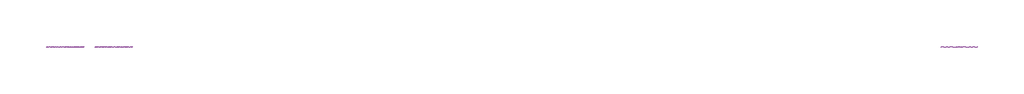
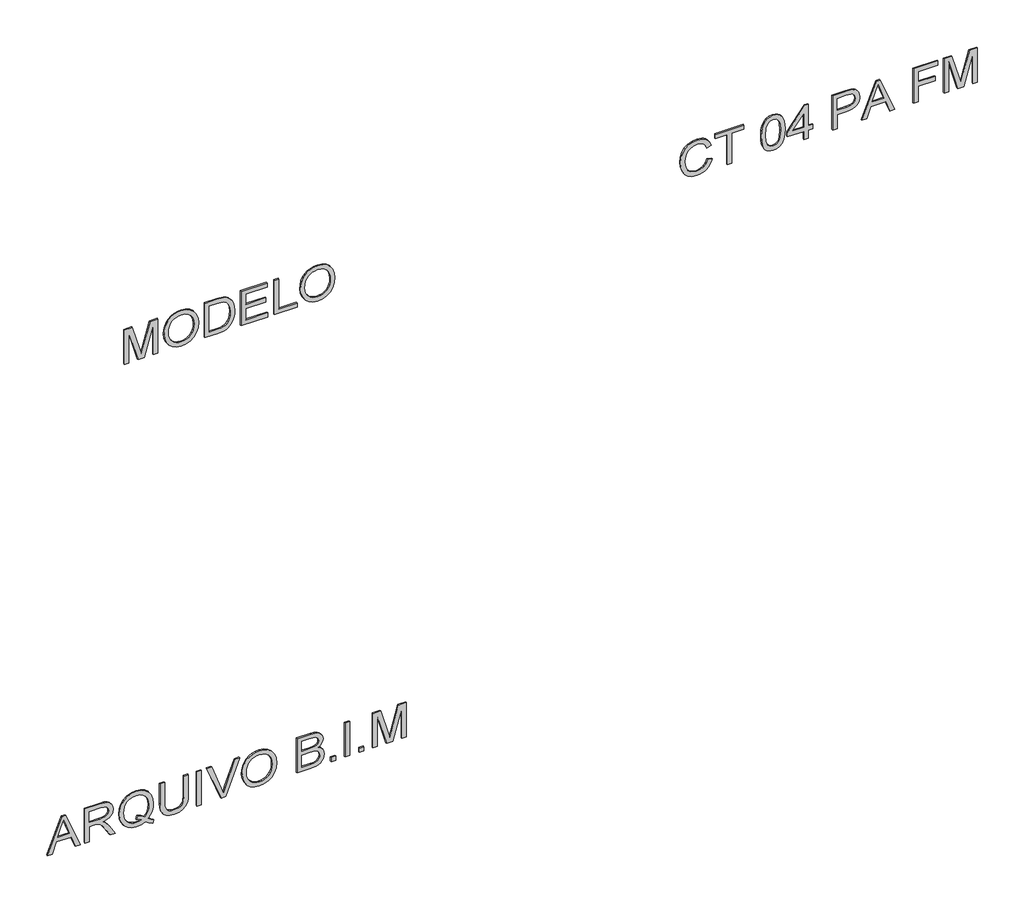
# One storey, part 1 of 2: 3 proxies.
"""IFC4 building model written with IfcOpenShell, lengths in millimetres."""

from ifc_helpers import new_model, si_unit, frame, origin, place, context, project, spatial, polyline, outline, extrude, element, save

model = new_model("IFC4")

# Units and contexts
model_context = context("Model", 3, world=origin())
ifc_project = project(units=[si_unit("LENGTHUNIT", "METRE", prefix="MILLI")], contexts=[model_context])

# Site, building, storey
site = spatial("IfcSite", under=ifc_project)
building = spatial("IfcBuilding", under=site)
storey = spatial("IfcBuildingStorey", under=building, Name="03 - Marelli - Planta Baixa - Cabine 04 Pessoas", Elevation=-24000.0)

# Proxies
placement = place(None, origin())
element("IfcBuildingElementProxy", 1, Name="300mm Arial", ObjectType="300mm Arial", at=placement, inside=storey, context=model_context, shape_type="SweptSolid", body=[
    extrude(outline(polyline([(-22400.0, -7636.3146377), (-22400.0, -7596.5098058), (-22305.8222092, -7562.076051), (-22305.8222092, -7437.9526659), (-22400.0, -7403.4453347), (-22400.0, -7363.6405028), (-22098.6310696, -7483.9379153), (-22098.6310696, -7516.0172252), (-22400.0, -7636.3146377)]), holes=[polyline([(-22268.1510929, -7548.243688), (-22187.584936, -7518.739552), (-22136.3021859, -7499.9775703), (-22194.0596591, -7478.8611437), (-22268.1510929, -7451.7114525), (-22268.1510929, -7548.243688)])]), frame((0.0, 8778.3159498, 0.0), z_axis=(0.0, 1.0, 0.0), x_axis=(0.0, 0.0, 1.0)), (0.0, 0.0, 1.0), 10.0),
    extrude(outline(polyline([(-22400.0, -7323.3942126), (-22400.0, -7285.7230963), (-22268.1510929, -7285.7230963), (-22268.1510929, -7240.2528817), (-22269.4754681, -7218.4006911), (-22276.649167, -7200.484838), (-22296.183701, -7180.582422), (-22337.5336372, -7152.2555084), (-22400.0, -7113.0392877), (-22400.0, -7069.2613303), (-22318.3301971, -7119.5140108), (-22279.5554348, -7150.0482164), (-22263.4422034, -7171.4589486), (-22253.4542072, -7134.3488523), (-22245.4389783, -7119.9669655), (-22235.4095954, -7108.3671864), (-22210.7982899, -7093.0540983), (-22181.1102129, -7087.9497357), (-22157.2438684, -7091.0307474), (-22135.5296337, -7100.2737825), (-22118.0184507, -7114.6763626), (-22106.7612616, -7133.2360093), (-22100.6636176, -7158.629064), (-22098.6310696, -7193.5318683), (-22098.6310696, -7323.3942126), (-22400.0, -7323.3942126)]), holes=[polyline([(-22230.4799766, -7285.7230963), (-22136.3021859, -7285.7230963), (-22136.3021859, -7191.9131875), (-22139.5579415, -7162.1055488), (-22149.3252085, -7141.5501423), (-22164.1324588, -7129.6031746), (-22182.5081645, -7125.620852), (-22195.8162956, -7127.7085823), (-22208.0759631, -7133.9717732), (-22218.2111121, -7144.254075), (-22225.1456877, -7158.3991377), (-22229.1464044, -7177.1887106), (-22230.4799766, -7201.404543), (-22230.4799766, -7285.7230963)])]), frame((0.0, 8778.3159498, 0.0), z_axis=(0.0, 1.0, 0.0), x_axis=(0.0, 0.0, 1.0)), (0.0, 0.0, 1.0), 10.0),
    extrude(outline(polyline([(-22363.8739881, -6795.6307023), (-22340.3479345, -6777.1814202), (-22313.0326963, -6764.0664271), (-22281.9650618, -6756.2305406), (-22247.1818192, -6753.6185784), (-22205.3536364, -6757.9227978), (-22168.0136138, -6770.8354558), (-22136.8172207, -6791.9610794), (-22113.4199258, -6820.9041954), (-22098.7966164, -6855.7702114), (-22093.92218, -6894.6645354), (-22098.6862519, -6933.2553567), (-22112.9784674, -6967.9466288), (-22136.3849593, -6996.93573), (-22168.4918604, -7018.4200386), (-22206.944726, -7031.7189727), (-22249.3891112, -7036.1519507), (-22291.7967082, -7031.7097756), (-22329.6977507, -7018.3832504), (-22361.3539964, -6996.8161684), (-22385.0272028, -6967.6523232), (-22399.7884679, -6932.8322924), (-22404.7088895, -6894.2966534), (-22400.4414584, -6855.9449554), (-22387.639165, -6821.0881364), (-22408.47968, -6790.1308665), (-22422.8822601, -6759.063232), (-22395.2911105, -6748.9096889), (-22382.4704229, -6771.2953083), (-22363.8739881, -6795.6307023)]), holes=[polyline([(-22313.7684603, -6883.9223811), (-22342.6104088, -6893.6344658), (-22349.287467, -6873.2721974), (-22359.3122513, -6853.9767867), (-22365.1063928, -6873.6032912), (-22367.0377732, -6894.5173826), (-22365.1362832, -6916.2385151), (-22359.431813, -6935.9316982), (-22349.9243627, -6953.5969318), (-22336.6139322, -6969.2342158), (-22319.748842, -6982.0296115), (-22299.5774124, -6991.1691798), (-22276.0996433, -6996.6529208), (-22249.3155348, -6998.4808344), (-22221.8140564, -6996.6322274), (-22197.9500112, -6991.0864063), (-22177.7233993, -6981.8433712), (-22161.1342205, -6968.903122), (-22148.2100662, -6953.1577726), (-22138.9785274, -6935.4994369), (-22133.4396041, -6915.9281147), (-22131.5932963, -6894.4438062), (-22135.2445251, -6865.9605427), (-22146.1982115, -6840.4019411), (-22163.7645768, -6819.2027411), (-22187.2538422, -6803.7976826), (-22215.9394408, -6794.4166917), (-22249.0948056, -6791.2896947), (-22278.2678478, -6793.5015852), (-22303.5413409, -6800.1372567), (-22324.9152848, -6811.1967092), (-22342.3896796, -6826.6799427), (-22325.7430193, -6852.2477413), (-22313.7684603, -6883.9223811)])]), frame((0.0, 8778.3159498, 0.0), z_axis=(0.0, 1.0, 0.0), x_axis=(0.0, 0.0, 1.0)), (0.0, 0.0, 1.0), 10.0),
    extrude(outline(polyline([(-22098.6310696, -6499.3385434), (-22271.1677253, -6499.3385434), (-22318.3301971, -6504.1026152), (-22335.0688279, -6510.057705), (-22347.2457219, -6518.3948307), (-22355.9047444, -6529.5278596), (-22362.0897604, -6543.8706589), (-22367.0377732, -6582.1855687), (-22364.5361757, -6606.3554158), (-22357.031383, -6626.4785609), (-22344.9188683, -6641.9112106), (-22328.5941047, -6652.0095714), (-22305.0220659, -6657.5829836), (-22271.1677253, -6659.4407877), (-22098.6310696, -6659.4407877), (-22098.6310696, -6697.111904), (-22272.4921005, -6697.111904), (-22315.2675795, -6694.2516215), (-22347.9446977, -6685.6707739), (-22372.3076828, -6670.4036711), (-22390.1407625, -6647.4846228), (-22401.0668578, -6616.904432), (-22404.7088895, -6578.6539015), (-22400.5242318, -6539.5480454), (-22387.9702588, -6508.7563224), (-22368.7484245, -6486.2235502), (-22344.5601833, -6471.8945465), (-22313.2074403, -6464.2242069), (-22272.4921005, -6461.6674271), (-22098.6310696, -6461.6674271), (-22098.6310696, -6499.3385434)])), frame((0.0, 8778.3159498, 0.0), z_axis=(0.0, 1.0, 0.0), x_axis=(0.0, 0.0, 1.0)), (0.0, 0.0, 1.0), 10.0),
    extrude(outline(polyline([(-6353.3629677, 8778.3159498), (-6391.034084, 8778.3159498), (-6391.034084, 8788.3159498), (-6353.3629677, 8788.3159498), (-6353.3629677, 8778.3159498)])), frame((0.0, 0.0, -22400.0), z_axis=(0.0, 0.0, 1.0), x_axis=(1.0, 0.0, 0.0)), (0.0, 0.0, 1.0), 301.3689304),
    extrude(outline(polyline([(-22400.0, -6188.9932922), (-22400.0, -6150.0713771), (-22098.6310696, -6035.2186183), (-22098.6310696, -6075.5384849), (-22315.7550231, -6156.0310655), (-22364.6833285, -6172.0707205), (-22315.7550231, -6188.3311046), (-22098.6310696, -6268.602956), (-22098.6310696, -6308.9228227), (-22400.0, -6188.9932922)])), frame((0.0, 8778.3159498, 0.0), z_axis=(0.0, 1.0, 0.0), x_axis=(0.0, 0.0, 1.0)), (0.0, 0.0, 1.0), 10.0),
    extrude(outline(polyline([(-22253.2886603, -6014.3229209), (-22291.8334964, -6010.0187016), (-22328.2997991, -5997.1060436), (-22359.992833, -5975.8424642), (-22384.2178624, -5946.485481), (-22399.5861328, -5910.8377157), (-22404.7088895, -5870.70179), (-22400.0735764, -5832.892718), (-22386.167637, -5797.7507904), (-22363.2485887, -5767.7868019), (-22331.5739489, -5745.5115471), (-22293.1118863, -5731.6883811), (-22249.8305696, -5727.0806591), (-22207.1194699, -5731.4584548), (-22169.1908362, -5744.5918421), (-22137.5713787, -5766.0761506), (-22113.7878078, -5795.5067102), (-22098.8885869, -5830.9521404), (-22093.92218, -5870.4810608), (-22096.5663319, -5900.7715446), (-22104.4987874, -5928.1465636), (-22117.7195466, -5952.6061177), (-22136.2286095, -5974.1502071), (-22159.4097737, -5991.7257694), (-22186.6468369, -6004.2797425), (-22217.9397991, -6011.8121263), (-22253.2886603, -6014.3229209)]), holes=[polyline([(-22253.6565423, -5976.6518046), (-22223.1200375, -5974.6882345), (-22197.2878236, -5968.797524), (-22176.1599008, -5958.9796733), (-22159.736269, -5945.2346822), (-22147.4237184, -5928.7673644), (-22138.6290395, -5910.7825334), (-22133.3522321, -5891.2801891), (-22131.5932963, -5870.2603316), (-22135.2445251, -5841.0964864), (-22146.1982115, -5814.9676677), (-22163.7921679, -5793.3086153), (-22187.3642068, -5777.5540688), (-22216.1877611, -5767.9523488), (-22249.536264, -5764.7517754), (-22276.0743514, -5766.6210758), (-22299.4026684, -5772.228977), (-22319.521215, -5781.5754789), (-22336.4299912, -5794.6605816), (-22349.8208959, -5810.642755), (-22359.3858277, -5828.6804691), (-22365.1247869, -5848.7737238), (-22367.0377732, -5870.9225192), (-22365.143181, -5892.6988341), (-22359.4594041, -5912.557564), (-22349.9864428, -5930.4987091), (-22336.7242968, -5946.5222692), (-22320.1650085, -5959.703941), (-22300.80062, -5969.1194208), (-22278.6311313, -5974.7687087), (-22253.6565423, -5976.6518046)])]), frame((0.0, 8778.3159498, 0.0), z_axis=(0.0, 1.0, 0.0), x_axis=(0.0, 0.0, 1.0)), (0.0, 0.0, 1.0), 10.0),
    extrude(outline(polyline([(-22400.0, -5557.5606357), (-22400.0, -5443.4436408), (-22394.8128639, -5395.1407348), (-22388.3933231, -5377.10532), (-22379.5089729, -5362.3624491), (-22367.2401083, -5350.3235108), (-22350.6670244, -5340.399894), (-22331.1784758, -5333.7504269), (-22310.1632168, -5331.5339379), (-22284.944906, -5334.7804965), (-22263.2950506, -5344.5201723), (-22246.3356906, -5360.2931129), (-22235.1888662, -5381.6394656), (-22223.4442335, -5363.7695977), (-22208.5174215, -5351.0684718), (-22191.456894, -5343.4809057), (-22173.3111146, -5340.951717), (-22153.5926396, -5343.9591523), (-22134.7570815, -5352.9814582), (-22118.7450176, -5367.3104619), (-22107.4970256, -5386.2379906), (-22100.8475586, -5410.9320695), (-22098.6310696, -5442.560724), (-22098.6310696, -5557.5606357), (-22400.0, -5557.5606357)]), holes=[polyline([(-22221.0621975, -5519.8895194), (-22136.3021859, -5519.8895194), (-22136.3021859, -5456.3195106), (-22140.2385232, -5407.9062401), (-22145.8395266, -5395.4166463), (-22154.769862, -5386.2012024), (-22166.2109921, -5380.5174255), (-22179.3443793, -5378.6228333), (-22192.8732397, -5380.6553813), (-22203.8821084, -5386.7530254), (-22212.2422267, -5396.8605832), (-22217.824836, -5410.9228724), (-22221.0621975, -5451.0955863), (-22221.0621975, -5519.8895194)]), polyline([(-22362.3288837, -5519.8895194), (-22258.7333139, -5519.8895194), (-22258.7333139, -5446.3131204), (-22259.9933097, -5419.4853259), (-22263.7732972, -5399.776048), (-22270.6618875, -5385.8609115), (-22281.247692, -5376.4155413), (-22294.7857494, -5371.007676), (-22310.5310988, -5369.2050542), (-22324.0875503, -5370.7409615), (-22335.9149564, -5375.3486835), (-22352.6535872, -5391.0204565), (-22360.8573557, -5414.6752688), (-22362.3288837, -5442.6343004), (-22362.3288837, -5519.8895194)])]), frame((0.0, 8778.3159498, 0.0), z_axis=(0.0, 1.0, 0.0), x_axis=(0.0, 0.0, 1.0)), (0.0, 0.0, 1.0), 10.0),
    extrude(outline(polyline([(-5237.3561471, 8778.3159498), (-5275.0272634, 8778.3159498), (-5275.0272634, 8788.3159498), (-5237.3561471, 8788.3159498), (-5237.3561471, 8778.3159498)])), frame((0.0, 0.0, -22400.0), z_axis=(0.0, 0.0, 1.0), x_axis=(1.0, 0.0, 0.0)), (0.0, 0.0, 1.0), 37.6711163),
    extrude(outline(polyline([(-5119.6339087, 8778.3159498), (-5157.305025, 8778.3159498), (-5157.305025, 8788.3159498), (-5119.6339087, 8788.3159498), (-5119.6339087, 8778.3159498)])), frame((0.0, 0.0, -22400.0), z_axis=(0.0, 0.0, 1.0), x_axis=(1.0, 0.0, 0.0)), (0.0, 0.0, 1.0), 301.3689304),
    extrude(outline(polyline([(-5001.9116702, 8778.3159498), (-5039.5827865, 8778.3159498), (-5039.5827865, 8788.3159498), (-5001.9116702, 8788.3159498), (-5001.9116702, 8778.3159498)])), frame((0.0, 0.0, -22400.0), z_axis=(0.0, 0.0, 1.0), x_axis=(1.0, 0.0, 0.0)), (0.0, 0.0, 1.0), 37.6711163),
    extrude(outline(polyline([(-22400.0, -4926.5694376), (-22400.0, -4888.8983213), (-22136.3021859, -4888.8983213), (-22400.0, -4813.1882067), (-22400.0, -4762.1261857), (-22136.3021859, -4686.4160711), (-22400.0, -4686.4160711), (-22400.0, -4648.7449548), (-22098.6310696, -4648.7449548), (-22098.6310696, -4713.5657624), (-22307.3673136, -4774.1927152), (-22355.4127022, -4787.6571962), (-22311.0461336, -4800.0916076), (-22098.6310696, -4861.74863), (-22098.6310696, -4926.5694376), (-22400.0, -4926.5694376)])), frame((0.0, 8778.3159498, 0.0), z_axis=(0.0, 1.0, 0.0), x_axis=(0.0, 0.0, 1.0)), (0.0, 0.0, 1.0), 10.0),
])
element("IfcBuildingElementProxy", 2, Name="300mm Arial", ObjectType="300mm Arial", at=placement, inside=storey, context=model_context, shape_type="SweptSolid", body=[
    extrude(outline(polyline([(-18300.0, -6993.7719449), (-18300.0, -6956.1008286), (-18036.3021859, -6956.1008286), (-18300.0, -6880.390714), (-18300.0, -6829.328693), (-18036.3021859, -6753.6185784), (-18300.0, -6753.6185784), (-18300.0, -6715.9474621), (-17998.6310696, -6715.9474621), (-17998.6310696, -6780.7682697), (-18207.3673136, -6841.3952225), (-18255.4127022, -6854.8597035), (-18211.0461336, -6867.2941149), (-17998.6310696, -6928.9511373), (-17998.6310696, -6993.7719449), (-18300.0, -6993.7719449)])), frame((0.0, 8778.3159498, 0.0), z_axis=(0.0, 1.0, 0.0), x_axis=(0.0, 0.0, 1.0)), (0.0, 0.0, 1.0), 10.0),
    extrude(outline(polyline([(-18153.2886603, -6664.1496772), (-18191.8334964, -6659.8454579), (-18228.2997991, -6646.9327998), (-18259.992833, -6625.6692205), (-18284.2178624, -6596.3122373), (-18299.5861328, -6560.664472), (-18304.7088895, -6520.5285463), (-18300.0735764, -6482.7194742), (-18286.167637, -6447.5775466), (-18263.2485887, -6417.6135581), (-18231.5739489, -6395.3383033), (-18193.1118863, -6381.5151374), (-18149.8305696, -6376.9074154), (-18107.1194699, -6381.2852111), (-18069.1908362, -6394.4185983), (-18037.5713787, -6415.9029069), (-18013.7878078, -6445.3334665), (-17998.8885869, -6480.7788967), (-17993.92218, -6520.3078171), (-17996.5663319, -6550.5983009), (-18004.4987874, -6577.9733198), (-18017.7195466, -6602.432874), (-18036.2286095, -6623.9769633), (-18059.4097737, -6641.5525257), (-18086.6468369, -6654.1064987), (-18117.9397991, -6661.6388826), (-18153.2886603, -6664.1496772)]), holes=[polyline([(-18153.6565423, -6626.4785609), (-18123.1200375, -6624.5149908), (-18097.2878236, -6618.6242803), (-18076.1599008, -6608.8064296), (-18059.736269, -6595.0614385), (-18047.4237184, -6578.5941207), (-18038.6290395, -6560.6092897), (-18033.3522321, -6541.1069454), (-18031.5932963, -6520.0870879), (-18035.2445251, -6490.9232427), (-18046.1982115, -6464.794424), (-18063.7921679, -6443.1353716), (-18087.3642068, -6427.3808251), (-18116.1877611, -6417.779105), (-18149.536264, -6414.5785317), (-18176.0743514, -6416.4478321), (-18199.4026684, -6422.0557332), (-18219.521215, -6431.4022352), (-18236.4299912, -6444.4873379), (-18249.8208959, -6460.4695113), (-18259.3858277, -6478.5072254), (-18265.1247869, -6498.6004801), (-18267.0377732, -6520.7492755), (-18265.143181, -6542.5255903), (-18259.4594041, -6562.3843203), (-18249.9864428, -6580.3254653), (-18236.7242968, -6596.3490255), (-18220.1650085, -6609.5306972), (-18200.80062, -6618.9461771), (-18178.6311313, -6624.5954649), (-18153.6565423, -6626.4785609)])]), frame((0.0, 8778.3159498, 0.0), z_axis=(0.0, 1.0, 0.0), x_axis=(0.0, 0.0, 1.0)), (0.0, 0.0, 1.0), 10.0),
    extrude(outline(polyline([(-18300.0, -6325.1096305), (-18300.0, -6216.1429835), (-18294.8496521, -6167.6929247), (-18288.4944906, -6148.1491937), (-18279.7297021, -6131.6772774), (-18267.911493, -6117.3298796), (-18252.3960698, -6104.1597042), (-18232.7419742, -6092.7185741), (-18208.5077478, -6083.5583124), (-18180.0428784, -6077.5434418), (-18147.696854, -6075.5384849), (-18109.6210675, -6078.499935), (-18076.0334413, -6087.3842852), (-18047.4857985, -6102.2283237), (-18024.529962, -6123.0688387), (-18011.3413925, -6143.3391366), (-18002.9720771, -6167.3618309), (-17998.6310696, -6221.1461786), (-17998.6310696, -6325.1096305), (-18300.0, -6325.1096305)]), holes=[polyline([(-18262.3288837, -6287.4385141), (-18036.3021859, -6287.4385141), (-18036.3021859, -6221.8083662), (-18037.810502, -6190.06015), (-18042.3354506, -6168.3919005), (-18054.9170148, -6147.10073), (-18075.7391357, -6129.2860444), (-18106.0526121, -6117.228712), (-18147.1082428, -6113.2096012), (-18178.0931038, -6115.2605434), (-18204.0931639, -6121.4133697), (-18225.2003933, -6131.245016), (-18241.5067628, -6144.332418), (-18250.3175366, -6156.5093121), (-18256.8842302, -6172.2914497), (-18260.9677203, -6193.2055411), (-18262.3288837, -6220.7782966), (-18262.3288837, -6287.4385141)])]), frame((0.0, 8778.3159498, 0.0), z_axis=(0.0, 1.0, 0.0), x_axis=(0.0, 0.0, 1.0)), (0.0, 0.0, 1.0), 10.0),
    extrude(outline(polyline([(-18300.0, -6023.7407), (-18300.0, -5802.4228917), (-18262.3288837, -5802.4228917), (-18262.3288837, -5986.0695837), (-18163.4422034, -5986.0695837), (-18163.4422034, -5816.5495603), (-18125.7710871, -5816.5495603), (-18125.7710871, -5986.0695837), (-18036.3021859, -5986.0695837), (-18036.3021859, -5807.1317812), (-17998.6310696, -5807.1317812), (-17998.6310696, -6023.7407), (-18300.0, -6023.7407)])), frame((0.0, 8778.3159498, 0.0), z_axis=(0.0, 1.0, 0.0), x_axis=(0.0, 0.0, 1.0)), (0.0, 0.0, 1.0), 10.0),
    extrude(outline(polyline([(-18300.0, -5745.9162172), (-18300.0, -5557.5606357), (-18262.3288837, -5557.5606357), (-18262.3288837, -5708.2451009), (-17998.6310696, -5708.2451009), (-17998.6310696, -5745.9162172), (-18300.0, -5745.9162172)])), frame((0.0, 8778.3159498, 0.0), z_axis=(0.0, 1.0, 0.0), x_axis=(0.0, 0.0, 1.0)), (0.0, 0.0, 1.0), 10.0),
    extrude(outline(polyline([(-18153.2886603, -5529.3072985), (-18191.8334964, -5525.0030791), (-18228.2997991, -5512.0904211), (-18259.992833, -5490.8268418), (-18284.2178624, -5461.4698586), (-18299.5861328, -5425.8220932), (-18304.7088895, -5385.6861676), (-18300.0735764, -5347.8770955), (-18286.167637, -5312.7351679), (-18263.2485887, -5282.7711794), (-18231.5739489, -5260.4959246), (-18193.1118863, -5246.6727586), (-18149.8305696, -5242.0650367), (-18107.1194699, -5246.4428324), (-18069.1908362, -5259.5762196), (-18037.5713787, -5281.0605281), (-18013.7878078, -5310.4910878), (-17998.8885869, -5345.936518), (-17993.92218, -5385.4654384), (-17996.5663319, -5415.7559222), (-18004.4987874, -5443.1309411), (-18017.7195466, -5467.5904953), (-18036.2286095, -5489.1345846), (-18059.4097737, -5506.7101469), (-18086.6468369, -5519.26412), (-18117.9397991, -5526.7965039), (-18153.2886603, -5529.3072985)]), holes=[polyline([(-18153.6565423, -5491.6361822), (-18123.1200375, -5489.672612), (-18097.2878236, -5483.7819016), (-18076.1599008, -5473.9640508), (-18059.736269, -5460.2190598), (-18047.4237184, -5443.751742), (-18038.6290395, -5425.7669109), (-18033.3522321, -5406.2645667), (-18031.5932963, -5385.2447092), (-18035.2445251, -5356.080864), (-18046.1982115, -5329.9520453), (-18063.7921679, -5308.2929928), (-18087.3642068, -5292.5384464), (-18116.1877611, -5282.9367263), (-18149.536264, -5279.736153), (-18176.0743514, -5281.6054533), (-18199.4026684, -5287.2133545), (-18219.521215, -5296.5598565), (-18236.4299912, -5309.6449592), (-18249.8208959, -5325.6271326), (-18259.3858277, -5343.6648467), (-18265.1247869, -5363.7581014), (-18267.0377732, -5385.9068968), (-18265.143181, -5407.6832116), (-18259.4594041, -5427.5419416), (-18249.9864428, -5445.4830866), (-18236.7242968, -5461.5066468), (-18220.1650085, -5474.6883185), (-18200.80062, -5484.1037983), (-18178.6311313, -5489.7530862), (-18153.6565423, -5491.6361822)])]), frame((0.0, 8778.3159498, 0.0), z_axis=(0.0, 1.0, 0.0), x_axis=(0.0, 0.0, 1.0)), (0.0, 0.0, 1.0), 10.0),
])
element("IfcBuildingElementProxy", 3, Name="300mm Arial", ObjectType="300mm Arial", at=placement, inside=storey, context=model_context, shape_type="SweptSolid", body=[
    extrude(outline(polyline([(-18192.872763, -2142.1019653), (-18225.136014, -2154.2880564), (-18248.3493679, -2174.0709107), (-18262.3656719, -2200.2733058), (-18267.0377732, -2231.7180194), (-18263.6072736, -2258.6929667), (-18253.3157748, -2283.6997453), (-18236.0897004, -2304.5586544), (-18211.855474, -2319.0899932), (-18181.7627268, -2327.6156585), (-18146.96109, -2330.4575469), (-18118.5422059, -2328.0571169), (-18090.9694503, -2320.8558268), (-18066.5788741, -2307.7316366), (-18047.7065277, -2287.5625062), (-18035.6216042, -2260.9830321), (-18031.5932963, -2228.6278106), (-18035.226131, -2200.5584144), (-18046.1246351, -2177.7129425), (-18064.9693903, -2159.8706657), (-18092.4409783, -2146.8108549), (-18083.4646576, -2109.1397386), (-18045.6463885, -2125.7772018), (-18030.3241034, -2137.5793161), (-18017.3930513, -2151.7036854), (-18007.1245451, -2167.8835954), (-17999.7898978, -2185.8523316), (-17993.92218, -2227.1562826), (-17998.4563256, -2265.0113399), (-18012.0587624, -2299.5554593), (-18034.3983965, -2328.6825162), (-18065.1441343, -2350.2863864), (-18103.0911621, -2363.668094), (-18147.0346664, -2368.1286632), (-18188.6973024, -2364.1831288), (-18227.6008233, -2352.3465256), (-18260.6918088, -2332.9591444), (-18284.9168382, -2306.3612762), (-18299.7608767, -2271.660807), (-18304.7088895, -2227.965623), (-18303.0741139, -2205.5432154), (-18298.1697871, -2184.9234296), (-18289.995909, -2166.1062655), (-18278.5524797, -2149.0917233), (-18263.995849, -2134.2154951), (-18246.4823668, -2121.8132733), (-18226.012033, -2111.885058), (-18202.5848477, -2104.430849), (-18192.872763, -2142.1019653)])), frame((0.0, 8778.3159498, 0.0), z_axis=(0.0, 1.0, 0.0), x_axis=(0.0, 0.0, 1.0)), (0.0, 0.0, 1.0), 10.0),
    extrude(outline(polyline([(-18300.0, -1977.2908315), (-18300.0, -1939.6197152), (-18036.3021859, -1939.6197152), (-18036.3021859, -1840.7330349), (-17998.6310696, -1840.7330349), (-17998.6310696, -2076.1775118), (-18036.3021859, -2076.1775118), (-18036.3021859, -1977.2908315), (-18300.0, -1977.2908315)])), frame((0.0, 8778.3159498, 0.0), z_axis=(0.0, 1.0, 0.0), x_axis=(0.0, 0.0, 1.0)), (0.0, 0.0, 1.0), 10.0),
    extrude(outline(polyline([(-18151.7435559, -1694.7574592), (-18191.1851044, -1692.881261), (-18225.0440435, -1687.2526665), (-18253.3203733, -1677.8716756), (-18276.0140939, -1664.7382884), (-18288.568067, -1651.0530782), (-18297.5351906, -1635.0134232), (-18302.9154648, -1616.6193234), (-18304.7088895, -1595.8707789), (-18300.5794141, -1565.4193468), (-18288.190988, -1540.7252678), (-18267.4056552, -1521.6229952), (-18238.0854602, -1507.9469821), (-18199.7061711, -1499.7248195), (-18151.7435559, -1496.9840986), (-18111.7823742, -1498.6947499), (-18080.9262719, -1503.8267037), (-18056.6276661, -1511.6625902), (-18036.3389741, -1521.4850395), (-18020.1981515, -1534.489668), (-18008.3431542, -1551.8720923), (-18001.0590907, -1572.657425), (-17998.6310696, -1595.8707789), (-18002.7329538, -1626.1566642), (-18015.0386065, -1650.7955608), (-18035.7411658, -1669.9254245), (-18065.0337697, -1683.6842112), (-18103.5050293, -1691.9891472), (-18151.7435559, -1694.7574592)]), holes=[polyline([(-18151.6699795, -1657.0863429), (-18093.1767423, -1652.5246062), (-18072.097104, -1646.8224352), (-18056.4621192, -1638.8393959), (-18041.3421692, -1619.8934732), (-18036.3021859, -1596.3122373), (-18042.0227509, -1571.4066262), (-18059.184446, -1551.7249395), (-18073.5456393, -1544.256935), (-18093.7469594, -1538.9226461), (-18151.6699795, -1534.6552149), (-18210.8346014, -1539.0697988), (-18231.0980016, -1544.5880288), (-18245.1487945, -1552.3135507), (-18261.5655286, -1572.0320256), (-18267.0377732, -1595.8707789), (-18261.5839227, -1619.7095322), (-18245.2223709, -1639.4280071), (-18231.1945706, -1647.153529), (-18210.9265719, -1652.671759), (-18151.6699795, -1657.0863429)])]), frame((0.0, 8778.3159498, 0.0), z_axis=(0.0, 1.0, 0.0), x_axis=(0.0, 0.0, 1.0)), (0.0, 0.0, 1.0), 10.0),
    extrude(outline(polyline([(-18300.0, -1341.5907438), (-18300.0, -1303.9196275), (-18229.3666569, -1303.9196275), (-18229.3666569, -1266.2485112), (-18191.6955406, -1266.2485112), (-18191.6955406, -1303.9196275), (-18003.3399591, -1303.9196275), (-18003.3399591, -1332.1729648), (-18191.6955406, -1478.1485404), (-18229.3666569, -1478.1485404), (-18229.3666569, -1341.5907438), (-18300.0, -1341.5907438)]), holes=[polyline([(-18191.6955406, -1341.5907438), (-18191.6955406, -1431.7954091), (-18075.2976773, -1341.5907438), (-18191.6955406, -1341.5907438)])]), frame((0.0, 8778.3159498, 0.0), z_axis=(0.0, 1.0, 0.0), x_axis=(0.0, 0.0, 1.0)), (0.0, 0.0, 1.0), 10.0),
    extrude(outline(polyline([(-18300.0, -1101.4373774), (-18300.0, -1063.7662611), (-18177.568872, -1063.7662611), (-18177.568872, -987.1732297), (-18175.904206, -957.9748956), (-18170.9102079, -933.6555964), (-18162.5868778, -914.2153323), (-18150.9342156, -899.654103), (-18136.8765248, -889.0476053), (-18121.338109, -881.4715354), (-18104.3189682, -876.9258935), (-18085.8191024, -875.4106796), (-18064.362385, -877.6547597), (-18044.7266835, -884.3870002), (-18028.0800233, -894.8072577), (-18015.5904295, -908.1153889), (-18006.8624292, -924.6424876), (-18001.5005491, -944.7196474), (-17998.6310696, -989.7484037), (-17998.6310696, -1101.4373774), (-18300.0, -1101.4373774)]), holes=[polyline([(-18139.8977557, -1063.7662611), (-18036.3021859, -1063.7662611), (-18036.3021859, -985.8488545), (-18038.8773598, -948.1777382), (-18045.2049301, -933.949902), (-18055.9470844, -922.7570923), (-18070.2209058, -915.50062), (-18087.1434776, -913.0817959), (-18109.4187324, -917.1836801), (-18126.0653927, -929.4893328), (-18136.4396649, -951.5622526), (-18139.8977557, -984.9659377), (-18139.8977557, -1063.7662611)])]), frame((0.0, 8778.3159498, 0.0), z_axis=(0.0, 1.0, 0.0), x_axis=(0.0, 0.0, 1.0)), (0.0, 0.0, 1.0), 10.0),
    extrude(outline(polyline([(-18300.0, -858.708837), (-18300.0, -818.9040051), (-18205.8222092, -784.4702503), (-18205.8222092, -660.3468652), (-18300.0, -625.839534), (-18300.0, -586.0347021), (-17998.6310696, -706.3321146), (-17998.6310696, -738.4114245), (-18300.0, -858.708837)]), holes=[polyline([(-18168.1510929, -770.6378873), (-18087.584936, -741.1337513), (-18036.3021859, -722.3717696), (-18094.0596591, -701.255343), (-18168.1510929, -674.1056518), (-18168.1510929, -770.6378873)])]), frame((0.0, 8778.3159498, 0.0), z_axis=(0.0, 1.0, 0.0), x_axis=(0.0, 0.0, 1.0)), (0.0, 0.0, 1.0), 10.0),
    extrude(outline(polyline([(-18300.0, -428.0661734), (-18300.0, -390.3950571), (-18163.4422034, -390.3950571), (-18163.4422034, -249.128371), (-18125.7710871, -249.128371), (-18125.7710871, -390.3950571), (-18036.3021859, -390.3950571), (-18036.3021859, -225.5839233), (-17998.6310696, -225.5839233), (-17998.6310696, -428.0661734), (-18300.0, -428.0661734)])), frame((0.0, 8778.3159498, 0.0), z_axis=(0.0, 1.0, 0.0), x_axis=(0.0, 0.0, 1.0)), (0.0, 0.0, 1.0), 10.0),
    extrude(outline(polyline([(-18300.0, -173.7861383), (-18300.0, -136.115022), (-18036.3021859, -136.115022), (-18300.0, -60.4049074), (-18300.0, -9.3428865), (-18036.3021859, 66.3672281), (-18300.0, 66.3672281), (-18300.0, 104.0383444), (-17998.6310696, 104.0383444), (-17998.6310696, 39.2175369), (-18207.3673136, -21.4094159), (-18255.4127022, -34.873897), (-18211.0461336, -47.3083084), (-17998.6310696, -108.9653308), (-17998.6310696, -173.7861383), (-18300.0, -173.7861383)])), frame((0.0, 8778.3159498, 0.0), z_axis=(0.0, 1.0, 0.0), x_axis=(0.0, 0.0, 1.0)), (0.0, 0.0, 1.0), 10.0),
])

save(model, "model.ifc")
